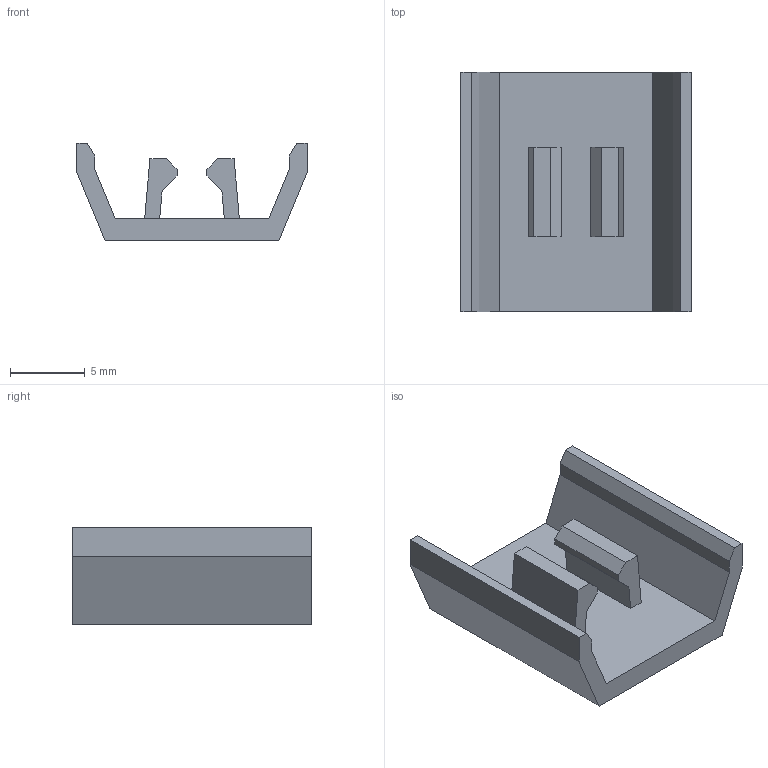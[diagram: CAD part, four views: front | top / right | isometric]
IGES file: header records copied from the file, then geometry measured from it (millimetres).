
Start section: Data from Parasolid IGES Translator 20.0.26, Copyright(c) 2006 Siemens P LM Software. All Rights Reserved.
Global section: file name: 9304915.igs; native system: By Siemens PLM Incorporated; preprocessor: XPlus GENERIC/IGES 20.0.26; author: Noname; organization: Noname; date: 20210929.130212; units: millimetre
Bounding box: 15.4 x 16 x 6.55 mm (x, y, z)
Surface area: 957.4 mm2 (no closed solid volume)
Topology: 0 solids, 0 shells, 32 faces, 168 edges, 168 vertices
Faces by surface type: extrusion 32
